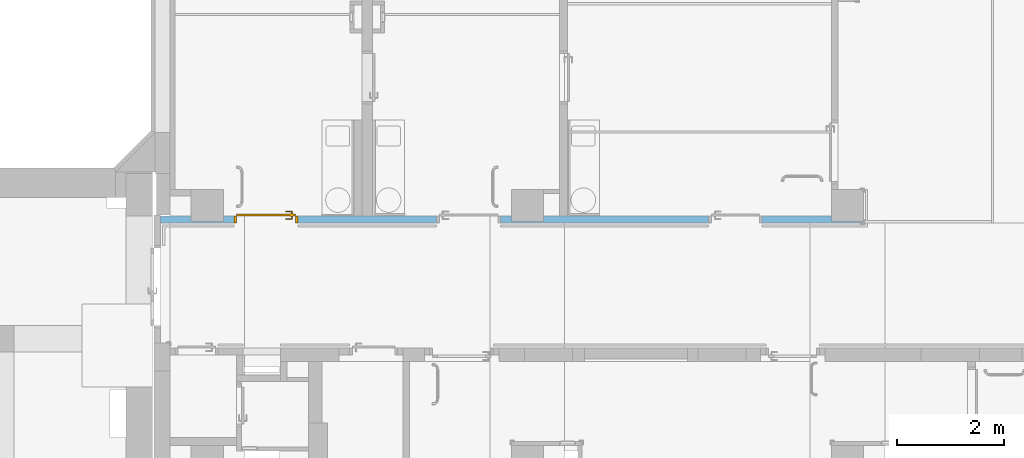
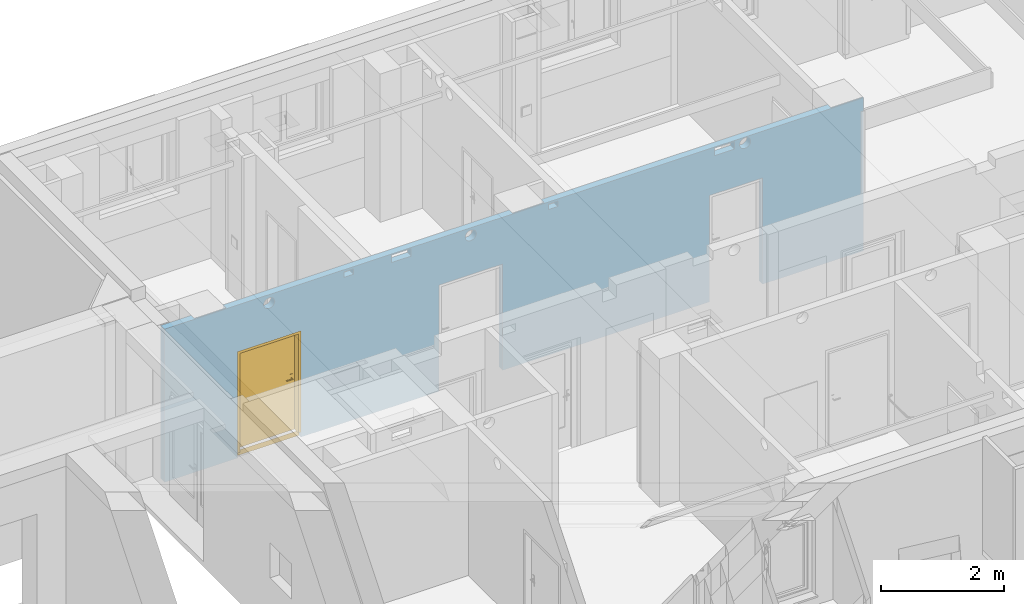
# One storey, part 59 of 84: 1 door, 13 openings, plus 1 element that does not belong to this part.
"""IFC4 building model written with IfcOpenShell, lengths in metres."""

import ifcopenshell
import ifcopenshell.guid

model = None  # the IFC model being written
_history = None  # IfcOwnerHistory: only IFC2X3 demands one
_inside = {}  # id of a spatial element -> (the spatial element, [elements in it])
_under = {}  # id of a project, library or spatial element -> (it, [spatial elements below it])
_declared = {}  # id of a project -> (the project, [libraries it declares])
_typed = {}  # id of a type object -> (the type object, [elements of that type])
_made_of = {}  # id of a material, layer set ... -> (it, [elements and type objects made of it])


def new_model(schema):
    """Start an empty IFC model of exactly this schema.

    Asked for "IFC4X3", IfcOpenShell would pick the latest addendum, in which some entities
    have other attributes; the version numbers below select the first issue.
    IFC2X3 requires an IfcOwnerHistory on every rooted entity: one is made here for all.
    """
    global model, _history
    if schema == "IFC4X3":
        model = ifcopenshell.file(schema_version=(4, 3, 0, 0))
    else:
        model = ifcopenshell.file(schema=schema)
    _inside.clear()
    _under.clear()
    _declared.clear()
    _typed.clear()
    _made_of.clear()
    _history = None
    if model.schema == "IFC2X3":
        org = make("IfcOrganization", Name="unknown")
        user = make(
            "IfcPersonAndOrganization",
            ThePerson=make("IfcPerson", FamilyName="unknown"),
            TheOrganization=org,
        )
        app = make(
            "IfcApplication",
            ApplicationDeveloper=org,
            Version="unknown",
            ApplicationFullName="unknown",
            ApplicationIdentifier="unknown",
        )
        _history = make(
            "IfcOwnerHistory",
            OwningUser=user,
            OwningApplication=app,
            ChangeAction="ADDED",
            CreationDate=0,
        )
    return model


def make(cls, **values):
    """One entity of the class cls with the attributes given. An attribute that is None is left unset."""
    return model.create_entity(
        cls, **{name: value for name, value in values.items() if value is not None}
    )


def entity(cls, *values):
    """Any entity or typed value of the class cls, its attributes in the order of the schema. None: left unset."""
    e = model.create_entity(cls)
    for i, value in enumerate(values):
        if value is not None:
            e[i] = value
    return e


def rooted(cls, **values):
    """An entity with a GlobalId (a new one), such as an element, a storey or a relation."""
    return make(cls, GlobalId=ifcopenshell.guid.new(), OwnerHistory=_history, **values)


def si_unit(unit_type, name, prefix=None):
    """IfcSIUnit, for example si_unit("LENGTHUNIT", "METRE", prefix="MILLI")."""
    return make("IfcSIUnit", UnitType=unit_type, Prefix=prefix, Name=name)


def converted_unit(unit_type, name, factor, base, dimensions=None, offset=None):
    """IfcConversionBasedUnit, such as the inch: factor (a typed value) times the base unit."""
    return make(
        "IfcConversionBasedUnit"
        if offset is None
        else "IfcConversionBasedUnitWithOffset",
        ConversionOffset=offset,
        Dimensions=None
        if dimensions is None
        else entity("IfcDimensionalExponents", *dimensions),
        UnitType=unit_type,
        Name=name,
        ConversionFactor=make(
            "IfcMeasureWithUnit", ValueComponent=factor, UnitComponent=base
        ),
    )


def derived_unit(unit_type, elements):
    """IfcDerivedUnit: a product of units, each with its exponent."""
    return make(
        "IfcDerivedUnit",
        Elements=[
            make("IfcDerivedUnitElement", Unit=unit, Exponent=power)
            for unit, power in elements
        ],
        UnitType=unit_type,
    )


def assignment(units):
    """IfcUnitAssignment: the units of a project."""
    return None if units is None else make("IfcUnitAssignment", Units=units)


def point(xyz):
    """IfcCartesianPoint."""
    return None if xyz is None else make("IfcCartesianPoint", Coordinates=xyz)


def direction(xyz):
    """IfcDirection."""
    return None if xyz is None else make("IfcDirection", DirectionRatios=xyz)


def frame(location, z_axis=None, x_axis=None):
    """IfcAxis2Placement3D, a coordinate frame: its origin and axes. An axis left out is left unset."""
    return make(
        "IfcAxis2Placement3D",
        Location=point(location),
        Axis=direction(z_axis),
        RefDirection=direction(x_axis),
    )


def frame_2d(location, x_axis=None):
    """IfcAxis2Placement2D, a coordinate frame in the plane: its origin and x axis."""
    return make(
        "IfcAxis2Placement2D", Location=point(location), RefDirection=direction(x_axis)
    )


def origin():
    """The frame at (0, 0, 0) with its axes left unset."""
    return frame((0.0, 0.0, 0.0))


def origin_with_axes():
    """The frame at (0, 0, 0) with the z axis (0, 0, 1) and the x axis (1, 0, 0) written out."""
    return frame((0.0, 0.0, 0.0), z_axis=(0.0, 0.0, 1.0), x_axis=(1.0, 0.0, 0.0))


def place(relative_to, where):
    """IfcLocalPlacement: puts the frame where relative to a parent placement (None: the world)."""
    return make(
        "IfcLocalPlacement", PlacementRelTo=relative_to, RelativePlacement=where
    )


def context(
    kind, dimensions, precision=None, world=None, true_north=None, identifier=None
):
    """IfcGeometricRepresentationContext, for example the 3D "Model" context."""
    return make(
        "IfcGeometricRepresentationContext",
        ContextIdentifier=identifier,
        ContextType=kind,
        CoordinateSpaceDimension=dimensions,
        Precision=precision,
        WorldCoordinateSystem=world,
        TrueNorth=true_north,
    )


def subcontext(parent, identifier, kind, view, scale=None):
    """IfcGeometricRepresentationSubContext, for example "Body" below "Model"."""
    return make(
        "IfcGeometricRepresentationSubContext",
        ContextIdentifier=identifier,
        ContextType=kind,
        ParentContext=parent,
        TargetScale=scale,
        TargetView=view,
    )


def project(units=None, contexts=None):
    """IfcProject with its units and contexts."""
    return rooted(
        "IfcProject",
        Name="project",
        RepresentationContexts=contexts,
        UnitsInContext=assignment(units),
    )


def spatial(cls, under=None, at=None, **own):
    """A site, building, storey or space (cls), placed at a placement, below another one or the project."""
    s = rooted(cls, ObjectPlacement=at, **own)
    if under is not None:
        _under.setdefault(under.id(), (under, []))[1].append(s)
    return s


def polyline(points):
    """IfcPolyline through the points."""
    return make("IfcPolyline", Points=[point(p) for p in points])


def profile(cls, at=None, kind="AREA", **sizes):
    """A parametric profile (cls). Its sizes go by their IFC names, for example OverallWidth=200.0."""
    return make(cls, ProfileType=kind, Position=at, **sizes)


def rectangle(**sizes):
    """IfcRectangleProfileDef."""
    return profile("IfcRectangleProfileDef", **sizes)


def outline(outer, holes=None, kind="AREA"):
    """IfcArbitraryClosedProfileDef: a profile drawn as a closed curve; with holes, ...WithVoids."""
    if holes is None:
        return make("IfcArbitraryClosedProfileDef", ProfileType=kind, OuterCurve=outer)
    return make(
        "IfcArbitraryProfileDefWithVoids",
        ProfileType=kind,
        OuterCurve=outer,
        InnerCurves=holes,
    )


def extrude(swept, where, along, depth):
    """IfcExtrudedAreaSolid: the profile swept, set in the frame where, extruded along a direction by depth."""
    return make(
        "IfcExtrudedAreaSolid",
        SweptArea=swept,
        Position=where,
        ExtrudedDirection=direction(along),
        Depth=depth,
    )


def faces_of(points, faces, orient=None, outer=None):
    """IfcFace entities. A face is a list of loops; a loop is a list of indices into points, from 0.

    orient and outer hold one flag for each loop. By default every Orientation is true, the
    first loop of a face is its IfcFaceOuterBound and the others are IfcFaceBound.
    """
    made = []
    for i, loops in enumerate(faces):
        bounds = []
        for j, loop in enumerate(loops):
            is_outer = j == 0 if outer is None else outer[i][j]
            bounds.append(
                make(
                    "IfcFaceOuterBound" if is_outer else "IfcFaceBound",
                    Bound=make("IfcPolyLoop", Polygon=[points[k] for k in loop]),
                    Orientation=True if orient is None else orient[i][j],
                )
            )
        made.append(make("IfcFace", Bounds=bounds))
    return made


def closed_shell(faces, orient=None, outer=None):
    """The faces of one IfcClosedShell. faceted_brep and surface_model build it on their shared points."""
    return ("IfcClosedShell", faces, orient, outer)


def open_shell(faces, orient=None, outer=None):
    """The faces of one IfcOpenShell. surface_model builds it on its shared points."""
    return ("IfcOpenShell", faces, orient, outer)


def surface_model(cls, points, shells):
    """IfcFaceBasedSurfaceModel or IfcShellBasedSurfaceModel (cls): surfaces that need not close."""
    shared = [point(p) for p in points]
    made = [make(c, CfsFaces=faces_of(shared, fs, o, b)) for c, fs, o, b in shells]
    if cls == "IfcFaceBasedSurfaceModel":
        return make(cls, FbsmFaces=made)
    return make(cls, SbsmBoundary=made)


def shape(context_of_items, identifier, shape_type, items):
    """IfcShapeRepresentation: the items that make up one representation, for example the "Body"."""
    return make(
        "IfcShapeRepresentation",
        ContextOfItems=context_of_items,
        RepresentationIdentifier=identifier,
        RepresentationType=shape_type,
        Items=items,
    )


def source(mapping_origin, context_of_items, identifier, shape_type, items):
    """IfcRepresentationMap: a shape defined once, which mapped items show again and again."""
    return make(
        "IfcRepresentationMap",
        MappingOrigin=mapping_origin,
        MappedRepresentation=shape(context_of_items, identifier, shape_type, items),
    )


def transform(
    local_origin,
    x_axis=None,
    y_axis=None,
    z_axis=None,
    scale=None,
    scale2=None,
    scale3=None,
    uniform=True,
):
    """IfcCartesianTransformationOperator3D, or its non-uniform kind. x_axis, y_axis, z_axis: its Axis1, 2, 3."""
    if uniform:
        return make(
            "IfcCartesianTransformationOperator3D",
            Axis1=direction(x_axis),
            Axis2=direction(y_axis),
            LocalOrigin=point(local_origin),
            Scale=scale,
            Axis3=direction(z_axis),
        )
    return make(
        "IfcCartesianTransformationOperator3DnonUniform",
        Axis1=direction(x_axis),
        Axis2=direction(y_axis),
        LocalOrigin=point(local_origin),
        Scale=scale,
        Axis3=direction(z_axis),
        Scale2=scale2,
        Scale3=scale3,
    )


def mapped(mapping_source, mapping_target):
    """IfcMappedItem: shows the shape of a source again, moved by a transform."""
    return make(
        "IfcMappedItem", MappingSource=mapping_source, MappingTarget=mapping_target
    )


def material(Name=None, Category=None):
    """IfcMaterial."""
    return make("IfcMaterial", Name=Name, Category=Category)


def layer(
    of_material, thickness, ventilated=None, Name=None, Category=None, Priority=None
):
    """IfcMaterialLayer: one layer of a wall or slab, of a material (None: an air gap)."""
    return make(
        "IfcMaterialLayer",
        Material=of_material,
        LayerThickness=thickness,
        IsVentilated=ventilated,
        Name=Name,
        Category=Category,
        Priority=Priority,
    )


def layer_set(layers, Name=None):
    """IfcMaterialLayerSet."""
    return make("IfcMaterialLayerSet", MaterialLayers=layers, LayerSetName=Name)


def layer_usage(for_layer_set, set_direction, sense, offset, extent=None):
    """IfcMaterialLayerSetUsage: how a layer set lies in its element."""
    return make(
        "IfcMaterialLayerSetUsage",
        ForLayerSet=for_layer_set,
        LayerSetDirection=set_direction,
        DirectionSense=sense,
        OffsetFromReferenceLine=offset,
        ReferenceExtent=extent,
    )


def made_of(thing, what):
    """Note that an element or type object is made of a material, layer set ...; save() writes the relation."""
    if what is not None:
        _made_of.setdefault(what.id(), (what, []))[1].append(thing)
    return thing


def type_object(cls, material=None, **own):
    """A type object (cls), such as IfcWallType, which elements share."""
    return made_of(rooted(cls, **own), material)


def element(
    cls,
    number,
    at=None,
    inside=None,
    cuts=None,
    type_object=None,
    material=None,
    context=None,
    identifier="Body",
    shape_type=None,
    held_by="IfcProductDefinitionShape",
    body=None,
    shapes=None,
    **own,
):
    """One element of the class cls, such as IfcWall. Its Tag is "e" and its number.

    at: its placement. inside: the storey or other place that contains it. cuts: it is an
    opening in that element (IfcRelVoidsElement). A single representation is given by context,
    identifier, shape_type and body (its items); several are given by shapes. held_by: the class
    of the entity that holds the representations. save() writes the other relations.
    """
    e = rooted(cls, Tag="e%d" % number, ObjectPlacement=at, **own)
    if body is not None:
        shapes = [shape(context, identifier, shape_type, body)]
    if shapes is not None:
        e.Representation = make(held_by, Representations=shapes)
    if inside is not None:
        _inside.setdefault(inside.id(), (inside, []))[1].append(e)
    if cuts is not None:
        rooted(
            "IfcRelVoidsElement", RelatingBuildingElement=cuts, RelatedOpeningElement=e
        )
    if type_object is not None:
        _typed.setdefault(type_object.id(), (type_object, []))[1].append(e)
    return made_of(e, material)


def fill(opening, filler):
    """IfcRelFillsElement: the door or window that sits in an opening."""
    return rooted(
        "IfcRelFillsElement",
        RelatingOpeningElement=opening,
        RelatedBuildingElement=filler,
    )


def aggregate(whole, parts):
    """IfcRelAggregates: a whole, such as a stair, and the parts it consists of."""
    return rooted("IfcRelAggregates", RelatingObject=whole, RelatedObjects=parts)


def save(model, path):
    """Write the relations noted so far, then the file.

    IfcRelAggregates (storeys below a building ...), IfcRelContainedInSpatialStructure (elements
    in a storey), IfcRelDefinesByType, IfcRelAssociatesMaterial and IfcRelDeclares: one each for
    every whole, place, type object, material and project.
    """
    for whole, parts in _under.values():
        aggregate(whole, parts)
    for where, things in _inside.values():
        rooted(
            "IfcRelContainedInSpatialStructure",
            RelatedElements=things,
            RelatingStructure=where,
        )
    for kind, things in _typed.values():
        rooted("IfcRelDefinesByType", RelatedObjects=things, RelatingType=kind)
    for what, things in _made_of.values():
        rooted("IfcRelAssociatesMaterial", RelatedObjects=things, RelatingMaterial=what)
    for by, libraries in _declared.values():
        rooted("IfcRelDeclares", RelatingContext=by, RelatedDefinitions=libraries)
    model.write(path)


model = new_model("IFC4")

# Units and contexts
model_context = context("Model", 3, precision=1e-05, world=origin())
body_context = subcontext(model_context, "Body", "Model", "MODEL_VIEW")
ifc_project = project(units=[si_unit("LENGTHUNIT", "METRE"), si_unit("AREAUNIT", "SQUARE_METRE"), si_unit("VOLUMEUNIT", "CUBIC_METRE"), si_unit("MASSUNIT", "GRAM", prefix="KILO"), converted_unit("PLANEANGLEUNIT", "DEGREE", entity("IfcPlaneAngleMeasure", 0.0174532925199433), si_unit("PLANEANGLEUNIT", "RADIAN"), dimensions=[0, 0, 0, 0, 0, 0, 0]), derived_unit("THERMALTRANSMITTANCEUNIT", [(si_unit("POWERUNIT", "WATT"), 1), (si_unit("THERMODYNAMICTEMPERATUREUNIT", "KELVIN"), -1), (si_unit("LENGTHUNIT", "METRE"), -2)]), derived_unit("VOLUMETRICFLOWRATEUNIT", [(si_unit("LENGTHUNIT", "METRE"), 3), (converted_unit("TIMEUNIT", "hour", entity("IfcTimeMeasure", 3600.0), si_unit("TIMEUNIT", "SECOND"), dimensions=[0, 0, 1, 0, 0, 0, 0]), -1), (si_unit("LENGTHUNIT", "METRE"), -1)])], contexts=[model_context])

# Site, building, storey
site_placement = place(None, origin())
site = spatial("IfcSite", under=ifc_project, at=site_placement, Name="3. ASŘ", CompositionType="ELEMENT")
building_placement = place(site_placement, origin())
building = spatial("IfcBuilding", under=site, at=building_placement, Name="Pavilon C", CompositionType="ELEMENT")
storey_placement = place(building_placement, frame((0.0, 0.0, -3.3)))
storey = spatial("IfcBuildingStorey", under=building, at=storey_placement, Name="Půdorys 1.PP", CompositionType="ELEMENT", Elevation=-3.3)

# Wall, openings, door
ifc_material = material(Name="SDK - 1 KCE + DVOJITÉ OPLÁŠTĚNÍ")
ifc_layer = layer(ifc_material, 0.125)
ifc_layer_set = layer_set([ifc_layer])
ifc_layer_usage = layer_usage(ifc_layer_set, "AXIS2", "POSITIVE", 0.0)
wall_placement = place(storey_placement, frame((-0.874999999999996, 9.875, -0.1), z_axis=(0.0, 0.0, 1.0), x_axis=(1.0, -2.76127423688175e-16, 0.0)))
wall = element("IfcWall", 1, at=wall_placement, inside=storey, material=ifc_layer_usage, Name="SDK - 1 KCE + DVOJITÉ OPLÁŠTĚNÍ", context=body_context, shape_type="SweptSolid", body=[
    extrude(rectangle(XDim=13.175, YDim=0.125, at=frame_2d((6.5875, 0.0625), x_axis=(1.0, 0.0))), origin_with_axes(), (0.0, 0.0, 1.0), 3.05),
])
opening_1_placement = place(wall_placement, frame((6.37500000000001, 0.124999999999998, 0.0), z_axis=(0.0, -1.0, 0.0), x_axis=(0.0, 0.0, 1.0)))
element("IfcOpeningElement", 2, at=opening_1_placement, cuts=wall, Name="Dveřní otvor", ObjectType="Opening", context=body_context, shape_type="SweptSolid", body=[
    extrude(outline(polyline([(0.0, 1.2), (2.12, 1.2), (2.12, 0.0), (0.0, 0.0), (0.0, 1.2)])), origin_with_axes(), (0.0, 0.0, 1.0), 0.125),
])
opening_2_placement = place(wall_placement, frame((1.37500000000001, 3.79675207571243e-16, 0.0), z_axis=(0.0, 1.0, 0.0), x_axis=(0.0, 0.0, 1.0)))
opening_2 = element("IfcOpeningElement", 3, at=opening_2_placement, cuts=wall, Name="Dveřní otvor", ObjectType="Opening", context=body_context, shape_type="SweptSolid", body=[
    extrude(outline(polyline([(0.0, 1.2), (2.12, 1.2), (2.12, 0.0), (0.0, 0.0), (0.0, 1.2)])), origin_with_axes(), (0.0, 0.0, 1.0), 0.125),
])
opening_3_placement = place(wall_placement, frame((11.275, 0.124999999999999, 0.0), z_axis=(0.0, -1.0, 0.0), x_axis=(0.0, 0.0, 1.0)))
element("IfcOpeningElement", 4, at=opening_3_placement, cuts=wall, Name="Dveřní otvor", ObjectType="Opening", context=body_context, shape_type="SweptSolid", body=[
    extrude(outline(polyline([(0.0, 1.0), (2.12, 1.0), (2.12, 0.0), (0.0, 0.0), (0.0, 1.0)])), origin_with_axes(), (0.0, 0.0, 1.0), 0.125),
])
opening_4_placement = place(wall_placement, frame((13.175, 0.125, 0.0), z_axis=(0.0, -1.0, 0.0), x_axis=(0.0, 0.0, 1.0)))
element("IfcOpeningElement", 5, at=opening_4_placement, cuts=wall, Name="Prostup stěnou", ObjectType="Opening", context=body_context, shape_type="SweptSolid", body=[
    extrude(outline(polyline([(0.0, 0.6), (3.05, 0.6), (3.05, 0.0), (0.0, 0.0), (0.0, 0.6)])), origin_with_axes(), (0.0, 0.0, 1.0), 0.1),
])
opening_5_placement = place(wall_placement, frame((1.17500000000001, 0.125, 0.0), z_axis=(0.0, -1.0, 0.0), x_axis=(0.0, 0.0, 1.0)))
element("IfcOpeningElement", 6, at=opening_5_placement, cuts=wall, Name="Stěnová nika", ObjectType="Opening", context=body_context, shape_type="SweptSolid", body=[
    extrude(outline(polyline([(0.0, 0.599999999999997), (3.05, 0.599999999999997), (3.05, 0.0), (0.0, 0.0), (0.0, 0.599999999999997)])), origin_with_axes(), (0.0, 0.0, 1.0), 0.100000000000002),
])
opening_6_placement = place(wall_placement, frame((7.17500000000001, 0.125, 0.0), z_axis=(0.0, -1.0, 0.0), x_axis=(0.0, 0.0, 1.0)))
element("IfcOpeningElement", 7, at=opening_6_placement, cuts=wall, Name="Stěnová nika", ObjectType="Opening", context=body_context, shape_type="SweptSolid", body=[
    extrude(outline(polyline([(0.0, 0.6), (3.05, 0.6), (3.05, 0.0), (0.0, 0.0), (0.0, 0.6)])), origin_with_axes(), (0.0, 0.0, 1.0), 0.1),
])
opening_7_placement = place(wall_placement, frame((3.3875, -8.83607755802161e-16, 2.9), z_axis=(0.0, 1.0, 0.0), x_axis=(0.0, 0.0, 1.0)))
element("IfcOpeningElement", 8, at=opening_7_placement, cuts=wall, Name="ZTI", ObjectType="Opening", context=body_context, shape_type="SweptSolid", body=[
    extrude(outline(polyline([(0.0, 0.175), (0.11, 0.175), (0.11, 0.0), (0.0, 0.0), (0.0, 0.175)])), origin_with_axes(), (0.0, 0.0, 1.0), 0.125),
])
opening_8_placement = place(wall_placement, frame((4.28228473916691, 1.18245625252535e-15, 2.88), z_axis=(0.0, 1.0, 0.0), x_axis=(0.0, 0.0, 1.0)))
element("IfcOpeningElement", 9, at=opening_8_placement, cuts=wall, Name="ZTI", ObjectType="Opening", context=body_context, shape_type="SweptSolid", body=[
    extrude(outline(polyline([(0.0, 0.37), (0.15, 0.37), (0.15, 0.0), (0.0, 0.0), (0.0, 0.37)])), origin_with_axes(), (0.0, 0.0, 1.0), 0.125),
])
opening_9_placement = place(wall_placement, frame((7.24, 1.80173143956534e-16, 2.9), z_axis=(0.0, 1.0, 0.0), x_axis=(0.0, 0.0, 1.0)))
element("IfcOpeningElement", 10, at=opening_9_placement, cuts=wall, Name="ZTI", ObjectType="Opening", context=body_context, shape_type="SweptSolid", body=[
    extrude(outline(polyline([(0.0, 0.175), (0.11, 0.175), (0.11, 0.0), (0.0, 0.0), (0.0, 0.175)])), origin_with_axes(), (0.0, 0.0, 1.0), 0.125),
])
opening_10_placement = place(wall_placement, frame((1.87, 5.16358282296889e-16, 2.775), z_axis=(0.0, 1.0, 0.0), x_axis=(0.0, 0.0, 1.0)))
element("IfcOpeningElement", 11, at=opening_10_placement, cuts=wall, Name="VZT", ObjectType="Opening", context=body_context, shape_type="SweptSolid", body=[
    extrude(outline(polyline([(0.105, 0.0), (0.0940245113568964, 0.000575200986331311), (0.0831692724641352, 0.00229450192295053), (0.0725532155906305, 0.0051390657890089), (0.062292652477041, 0.00907772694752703), (0.0525, 0.0140673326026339), (0.0432825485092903, 0.0200532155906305), (0.0347412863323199, 0.0269697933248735), (0.0269697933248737, 0.03474128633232), (0.0200532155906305, 0.0432825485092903), (0.014067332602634, 0.0525), (0.00907772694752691, 0.062292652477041), (0.0051390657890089, 0.0725532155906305), (0.00229450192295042, 0.0831692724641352), (0.000575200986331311, 0.0940245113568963), (0.0, 0.105), (0.000575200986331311, 0.115975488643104), (0.00229450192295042, 0.126830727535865), (0.0051390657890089, 0.137446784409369), (0.00907772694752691, 0.147707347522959), (0.014067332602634, 0.1575), (0.0200532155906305, 0.16671745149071), (0.0269697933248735, 0.17525871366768), (0.0347412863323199, 0.183030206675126), (0.0432825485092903, 0.18994678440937), (0.0525, 0.195932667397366), (0.062292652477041, 0.200922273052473), (0.0725532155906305, 0.204860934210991), (0.0831692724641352, 0.20770549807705), (0.0940245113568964, 0.209424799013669), (0.105, 0.21), (0.115975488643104, 0.209424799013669), (0.126830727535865, 0.20770549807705), (0.137446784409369, 0.204860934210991), (0.147707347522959, 0.200922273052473), (0.1575, 0.195932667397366), (0.16671745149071, 0.18994678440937), (0.17525871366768, 0.183030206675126), (0.183030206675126, 0.17525871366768), (0.189946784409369, 0.16671745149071), (0.195932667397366, 0.1575), (0.200922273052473, 0.147707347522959), (0.204860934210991, 0.137446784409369), (0.20770549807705, 0.126830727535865), (0.209424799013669, 0.115975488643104), (0.21, 0.105), (0.209424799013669, 0.0940245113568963), (0.20770549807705, 0.0831692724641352), (0.204860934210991, 0.0725532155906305), (0.200922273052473, 0.062292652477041), (0.195932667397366, 0.0525), (0.18994678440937, 0.0432825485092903), (0.183030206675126, 0.03474128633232), (0.17525871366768, 0.0269697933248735), (0.16671745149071, 0.0200532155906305), (0.1575, 0.0140673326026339), (0.147707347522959, 0.00907772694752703), (0.13744678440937, 0.0051390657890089), (0.126830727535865, 0.00229450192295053), (0.115975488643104, 0.000575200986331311), (0.105, 0.0)])), origin_with_axes(), (0.0, 0.0, 1.0), 0.125),
])
opening_11_placement = place(wall_placement, frame((5.67000000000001, -2.07233631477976e-15, 2.795), z_axis=(0.0, 1.0, 0.0), x_axis=(0.0, 0.0, 1.0)))
element("IfcOpeningElement", 12, at=opening_11_placement, cuts=wall, Name="VZT", ObjectType="Opening", context=body_context, shape_type="SweptSolid", body=[
    extrude(outline(polyline([(0.105, 0.0), (0.0940245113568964, 0.000575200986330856), (0.0831692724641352, 0.00229450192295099), (0.0725532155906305, 0.00513906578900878), (0.062292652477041, 0.00907772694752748), (0.0525, 0.0140673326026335), (0.0432825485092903, 0.0200532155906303), (0.0347412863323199, 0.0269697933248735), (0.0269697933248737, 0.0347412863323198), (0.0200532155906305, 0.0432825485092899), (0.014067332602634, 0.0525), (0.00907772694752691, 0.062292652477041), (0.0051390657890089, 0.0725532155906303), (0.00229450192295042, 0.0831692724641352), (0.000575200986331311, 0.0940245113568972), (0.0, 0.105), (0.000575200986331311, 0.115975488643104), (0.00229450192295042, 0.126830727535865), (0.0051390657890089, 0.13744678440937), (0.00907772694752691, 0.147707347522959), (0.014067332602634, 0.1575), (0.0200532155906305, 0.16671745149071), (0.0269697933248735, 0.17525871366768), (0.0347412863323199, 0.183030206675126), (0.0432825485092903, 0.18994678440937), (0.0525, 0.195932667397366), (0.062292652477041, 0.200922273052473), (0.0725532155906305, 0.204860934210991), (0.0831692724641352, 0.207705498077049), (0.0940245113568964, 0.209424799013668), (0.105, 0.21), (0.115975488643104, 0.209424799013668), (0.126830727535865, 0.207705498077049), (0.137446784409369, 0.204860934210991), (0.147707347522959, 0.200922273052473), (0.1575, 0.195932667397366), (0.16671745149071, 0.18994678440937), (0.17525871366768, 0.183030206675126), (0.183030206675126, 0.17525871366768), (0.189946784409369, 0.16671745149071), (0.195932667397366, 0.1575), (0.200922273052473, 0.147707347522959), (0.204860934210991, 0.13744678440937), (0.20770549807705, 0.126830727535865), (0.209424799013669, 0.115975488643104), (0.21, 0.105), (0.209424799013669, 0.0940245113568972), (0.20770549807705, 0.0831692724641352), (0.204860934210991, 0.0725532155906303), (0.200922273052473, 0.062292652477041), (0.195932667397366, 0.0525), (0.18994678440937, 0.0432825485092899), (0.183030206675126, 0.0347412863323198), (0.17525871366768, 0.0269697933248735), (0.16671745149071, 0.0200532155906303), (0.1575, 0.0140673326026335), (0.147707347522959, 0.00907772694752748), (0.13744678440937, 0.00513906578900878), (0.126830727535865, 0.00229450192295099), (0.115975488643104, 0.000575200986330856), (0.105, 0.0)])), origin_with_axes(), (0.0, 0.0, 1.0), 0.125),
])
opening_12_placement = place(wall_placement, frame((10.3703699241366, -7.74435277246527e-16, 2.88), z_axis=(0.0, 1.0, 0.0), x_axis=(0.0, 0.0, 1.0)))
element("IfcOpeningElement", 13, at=opening_12_placement, cuts=wall, Name="ZTI", ObjectType="Opening", context=body_context, shape_type="SweptSolid", body=[
    extrude(outline(polyline([(0.0, 0.37), (0.15, 0.37), (0.15, 0.0), (0.0, 0.0), (0.0, 0.37)])), origin_with_axes(), (0.0, 0.0, 1.0), 0.125),
])
opening_13_placement = place(wall_placement, frame((10.8403699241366, -6.44655388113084e-16, 2.825), z_axis=(0.0, 1.0, 0.0), x_axis=(0.0, 0.0, 1.0)))
element("IfcOpeningElement", 14, at=opening_13_placement, cuts=wall, Name="VZT", ObjectType="Opening", context=body_context, shape_type="SweptSolid", body=[
    extrude(outline(polyline([(0.105, 0.0), (0.0940245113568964, 0.000575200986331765), (0.0831692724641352, 0.0022945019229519), (0.0725532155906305, 0.00513906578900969), (0.062292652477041, 0.00907772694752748), (0.0525, 0.0140673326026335), (0.0432825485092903, 0.0200532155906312), (0.0347412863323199, 0.0269697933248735), (0.0269697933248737, 0.0347412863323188), (0.0200532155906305, 0.0432825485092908), (0.014067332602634, 0.0524999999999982), (0.00907772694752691, 0.062292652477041), (0.0051390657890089, 0.0725532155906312), (0.00229450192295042, 0.0831692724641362), (0.000575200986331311, 0.0940245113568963), (0.0, 0.105), (0.000575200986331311, 0.115975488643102), (0.00229450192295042, 0.126830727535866), (0.0051390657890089, 0.137446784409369), (0.00907772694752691, 0.147707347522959), (0.014067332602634, 0.1575), (0.0200532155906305, 0.166717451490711), (0.0269697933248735, 0.175258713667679), (0.0347412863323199, 0.183030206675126), (0.0432825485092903, 0.189946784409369), (0.0525, 0.195932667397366), (0.062292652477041, 0.200922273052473), (0.0725532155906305, 0.20486093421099), (0.0831692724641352, 0.20770549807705), (0.0940245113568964, 0.209424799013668), (0.105, 0.21), (0.115975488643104, 0.209424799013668), (0.126830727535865, 0.20770549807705), (0.137446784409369, 0.20486093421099), (0.147707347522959, 0.200922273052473), (0.1575, 0.195932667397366), (0.16671745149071, 0.189946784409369), (0.17525871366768, 0.183030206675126), (0.183030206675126, 0.175258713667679), (0.189946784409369, 0.166717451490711), (0.195932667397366, 0.1575), (0.200922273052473, 0.147707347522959), (0.204860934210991, 0.137446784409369), (0.20770549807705, 0.126830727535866), (0.209424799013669, 0.115975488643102), (0.21, 0.105), (0.209424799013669, 0.0940245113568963), (0.20770549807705, 0.0831692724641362), (0.204860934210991, 0.0725532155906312), (0.200922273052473, 0.062292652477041), (0.195932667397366, 0.0524999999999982), (0.18994678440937, 0.0432825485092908), (0.183030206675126, 0.0347412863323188), (0.17525871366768, 0.0269697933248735), (0.16671745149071, 0.0200532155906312), (0.1575, 0.0140673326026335), (0.147707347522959, 0.00907772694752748), (0.13744678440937, 0.00513906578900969), (0.126830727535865, 0.0022945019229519), (0.115975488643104, 0.000575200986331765), (0.105, 0.0)])), origin_with_axes(), (0.0, 0.0, 1.0), 0.125),
])
door_type = type_object("IfcDoorType", Name="I.D002", OperationType="NOTDEFINED", ParameterTakesPrecedence=False, PredefinedType="DOOR")
shared_shape = source(origin_with_axes(), body_context, "Body", "SurfaceModel", [
    surface_model("IfcShellBasedSurfaceModel", [(0.0, 0.1625, 0.0), (1.2, 0.1625, 0.0), (1.2, 0.1625, 0.1), (0.0, 0.1625, 0.1)], [open_shell([[[0, 1, 2, 3]]], orient=[[False]])]),
    surface_model("IfcShellBasedSurfaceModel", [(0.0, 0.225, 2.12), (0.0, 0.225, 0.101), (0.05, 0.225, 0.101), (0.05, 0.225, 2.12), (0.0, 0.0999999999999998, 0.101), (0.0, 0.1, 2.12), (0.05, 0.1, 2.12), (0.05, 0.0999999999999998, 0.101)], [closed_shell([[[0, 1, 2, 3]], [[4, 5, 6, 7]], [[1, 0, 5, 4]], [[2, 1, 4, 7]], [[3, 2, 7, 6]], [[0, 3, 6, 5]]], orient=[[False], [False], [False], [False], [False], [False]])]),
    surface_model("IfcShellBasedSurfaceModel", [(1.15, 0.225, 2.12), (1.15, 0.225, 0.101), (1.2, 0.225, 0.101), (1.2, 0.225, 2.12), (1.15, 0.0999999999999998, 0.101), (1.15, 0.1, 2.12), (1.2, 0.1, 2.12), (1.2, 0.0999999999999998, 0.101)], [closed_shell([[[0, 1, 2, 3]], [[4, 5, 6, 7]], [[1, 0, 5, 4]], [[2, 1, 4, 7]], [[3, 2, 7, 6]], [[0, 3, 6, 5]]], orient=[[False], [False], [False], [False], [False], [False]])]),
    surface_model("IfcShellBasedSurfaceModel", [(0.05, 0.225, 2.12), (0.05, 0.225, 2.07), (1.15, 0.225, 2.07), (1.15, 0.225, 2.12), (0.05, 0.1, 2.07), (0.05, 0.1, 2.12), (1.15, 0.1, 2.12), (1.15, 0.1, 2.07)], [closed_shell([[[0, 1, 2, 3]], [[4, 5, 6, 7]], [[1, 0, 5, 4]], [[2, 1, 4, 7]], [[3, 2, 7, 6]], [[0, 3, 6, 5]]], orient=[[False], [False], [False], [False], [False], [False]])]),
    surface_model("IfcShellBasedSurfaceModel", [(0.05, 0.1, 2.07), (0.05, 0.0999999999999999, 0.101), (1.15, 0.0999999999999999, 0.101), (1.15, 0.1, 2.07), (0.05, 0.0599999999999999, 0.101), (0.05, 0.0600000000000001, 2.07), (1.15, 0.0600000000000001, 2.07), (1.15, 0.0599999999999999, 0.101)], [closed_shell([[[0, 1, 2, 3]], [[4, 5, 6, 7]], [[1, 0, 5, 4]], [[2, 1, 4, 7]], [[3, 2, 7, 6]], [[0, 3, 6, 5]]], orient=[[False], [False], [False], [False], [False], [False]])]),
    surface_model("IfcShellBasedSurfaceModel", [(0.09, 0.06, 1.226), (0.09, 0.06, 1.011), (0.14, 0.06, 1.011), (0.14, 0.06, 1.226), (0.09, 0.05, 1.011), (0.09, 0.05, 1.226), (0.14, 0.05, 1.226), (0.14, 0.05, 1.011)], [closed_shell([[[0, 1, 2, 3]], [[4, 5, 6, 7]], [[1, 0, 5, 4]], [[2, 1, 4, 7]], [[3, 2, 7, 6]], [[0, 3, 6, 5]]], orient=[[False], [False], [False], [False], [False], [False]])]),
    surface_model("IfcShellBasedSurfaceModel", [(0.115, 0.05, 1.161), (0.11, 0.05, 1.15966025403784), (0.106339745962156, 0.05, 1.156), (0.105, 0.05, 1.151), (0.106339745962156, 0.05, 1.146), (0.11, 0.05, 1.14233974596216), (0.115, 0.05, 1.141), (0.12, 0.05, 1.14233974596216), (0.123660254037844, 0.05, 1.146), (0.125, 0.05, 1.151), (0.123660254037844, 0.05, 1.156), (0.12, 0.05, 1.15966025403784), (0.115, 0.01, 1.161), (0.11, 0.005, 1.15966025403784), (0.106339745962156, 0.00133974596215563, 1.156), (0.105, 0.0, 1.151), (0.106339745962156, 0.00133974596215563, 1.146), (0.11, 0.005, 1.14233974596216), (0.115, 0.01, 1.141), (0.12, 0.015, 1.14233974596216), (0.123660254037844, 0.0186602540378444, 1.146), (0.125, 0.02, 1.151), (0.123660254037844, 0.0186602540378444, 1.156), (0.12, 0.015, 1.15966025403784), (0.23, 0.01, 1.161), (0.23, 0.005, 1.15966025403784), (0.23, 0.0013397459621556, 1.156), (0.23, 0.0, 1.151), (0.23, 0.0013397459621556, 1.146), (0.23, 0.005, 1.14233974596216), (0.23, 0.01, 1.141), (0.23, 0.015, 1.14233974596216), (0.23, 0.0186602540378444, 1.146), (0.23, 0.02, 1.151), (0.23, 0.0186602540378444, 1.156), (0.23, 0.015, 1.15966025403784)], [open_shell([[[0, 1, 2, 3, 4, 5, 6, 7, 8, 9, 10, 11]], [[0, 12, 13, 1]], [[1, 13, 14, 2]], [[2, 14, 15, 3]], [[3, 15, 16, 4]], [[4, 16, 17, 5]], [[5, 17, 18, 6]], [[6, 18, 19, 7]], [[7, 19, 20, 8]], [[8, 20, 21, 9]], [[9, 21, 22, 10]], [[10, 22, 23, 11]], [[11, 23, 12, 0]], [[12, 24, 25, 13]], [[13, 25, 26, 14]], [[14, 26, 27, 15]], [[15, 27, 28, 16]], [[16, 28, 29, 17]], [[17, 29, 30, 18]], [[18, 30, 31, 19]], [[19, 31, 32, 20]], [[20, 32, 33, 21]], [[21, 33, 34, 22]], [[22, 34, 35, 23]], [[23, 35, 24, 12]]], orient=[[False], [False], [False], [False], [False], [False], [False], [False], [False], [False], [False], [False], [False], [False], [False], [False], [False], [False], [False], [False], [False], [False], [False], [False], [False]])]),
    surface_model("IfcShellBasedSurfaceModel", [(0.09, 0.1, 1.226), (0.14, 0.1, 1.226), (0.14, 0.1, 1.011), (0.09, 0.1, 1.011), (0.09, 0.11, 1.011), (0.14, 0.11, 1.011), (0.14, 0.11, 1.226), (0.09, 0.11, 1.226)], [closed_shell([[[0, 1, 2, 3]], [[4, 5, 6, 7]], [[3, 4, 7, 0]], [[2, 5, 4, 3]], [[1, 6, 5, 2]], [[0, 7, 6, 1]]], orient=[[False], [False], [False], [False], [False], [False]])]),
    surface_model("IfcShellBasedSurfaceModel", [(0.115, 0.11, 1.161), (0.12, 0.11, 1.15966025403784), (0.123660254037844, 0.11, 1.156), (0.125, 0.11, 1.151), (0.123660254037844, 0.11, 1.146), (0.12, 0.11, 1.14233974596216), (0.115, 0.11, 1.141), (0.11, 0.11, 1.14233974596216), (0.106339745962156, 0.11, 1.146), (0.105, 0.11, 1.151), (0.106339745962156, 0.11, 1.156), (0.11, 0.11, 1.15966025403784), (0.11, 0.155, 1.15966025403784), (0.115, 0.15, 1.161), (0.106339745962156, 0.158660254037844, 1.156), (0.105, 0.16, 1.151), (0.106339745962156, 0.158660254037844, 1.146), (0.11, 0.155, 1.14233974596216), (0.115, 0.15, 1.141), (0.12, 0.145, 1.14233974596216), (0.123660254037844, 0.141339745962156, 1.146), (0.125, 0.14, 1.151), (0.123660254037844, 0.141339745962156, 1.156), (0.12, 0.145, 1.15966025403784), (0.23, 0.155, 1.15966025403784), (0.23, 0.15, 1.161), (0.23, 0.158660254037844, 1.156), (0.23, 0.16, 1.151), (0.23, 0.158660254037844, 1.146), (0.23, 0.155, 1.14233974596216), (0.23, 0.15, 1.141), (0.23, 0.145, 1.14233974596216), (0.23, 0.141339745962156, 1.146), (0.23, 0.14, 1.151), (0.23, 0.141339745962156, 1.156), (0.23, 0.145, 1.15966025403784)], [open_shell([[[0, 1, 2, 3, 4, 5, 6, 7, 8, 9, 10, 11]], [[0, 11, 12, 13]], [[11, 10, 14, 12]], [[10, 9, 15, 14]], [[9, 8, 16, 15]], [[8, 7, 17, 16]], [[7, 6, 18, 17]], [[6, 5, 19, 18]], [[5, 4, 20, 19]], [[4, 3, 21, 20]], [[3, 2, 22, 21]], [[2, 1, 23, 22]], [[1, 0, 13, 23]], [[13, 12, 24, 25]], [[12, 14, 26, 24]], [[14, 15, 27, 26]], [[15, 16, 28, 27]], [[16, 17, 29, 28]], [[17, 18, 30, 29]], [[18, 19, 31, 30]], [[19, 20, 32, 31]], [[20, 21, 33, 32]], [[21, 22, 34, 33]], [[22, 23, 35, 34]], [[23, 13, 25, 35]]], orient=[[False], [False], [False], [False], [False], [False], [False], [False], [False], [False], [False], [False], [False], [False], [False], [False], [False], [False], [False], [False], [False], [False], [False], [False], [False]])]),
])
door_placement = place(opening_2_placement, frame((0.0, 1.2, 0.225), z_axis=(1.0, 0.0, 0.0), x_axis=(0.0, -1.0, -1.5366274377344e-16)))
door = element("IfcDoor", 15, at=door_placement, inside=storey, type_object=door_type, Name="I.D002", OverallHeight=2.12, OverallWidth=1.2, context=body_context, shape_type="MappedRepresentation", body=[
    mapped(shared_shape, transform((0.0, 0.0, 0.0), x_axis=(1.0, 0.0, 0.0), y_axis=(0.0, 1.0, 0.0), z_axis=(0.0, 0.0, 1.0), scale=1.0)),
])
fill(opening_2, door)

save(model, "model.ifc")
